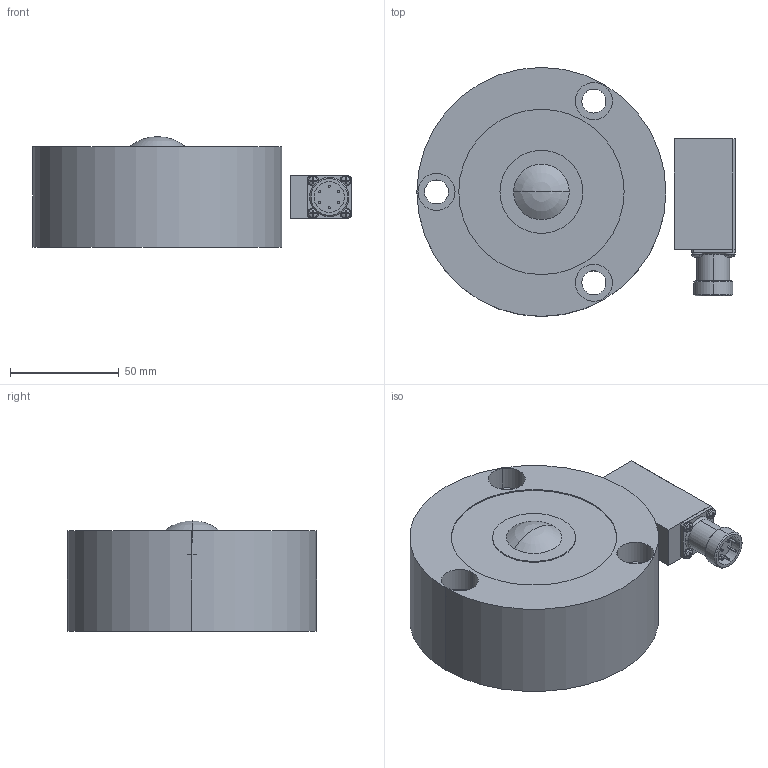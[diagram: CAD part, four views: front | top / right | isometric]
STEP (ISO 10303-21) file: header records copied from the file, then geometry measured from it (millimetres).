
FILE_DESCRIPTION(('STEP AP203'),'1');
FILE_NAME('C:/TPO v2/SharedFS/Outgoing/burster_85073-200_2w9ugfsd9ivw1m5sl3espuo20.stp','2013-08-27T14:15:58',('TraceParts'),('TraceParts S.A.'),'XStep 1.0',' ',' ');
FILE_SCHEMA(('CONFIG_CONTROL_DESIGN'));
Length unit declared in the file: millimetre
Products named in the file (1): 1
Bounding box: 146.05 x 114.3 x 50.8 mm (x, y, z)
Volume: 477152 mm3; surface area: 50547.1 mm2
Topology: 2 solids, 2 shells, 162 faces, 387 edges, 244 vertices
Faces by surface type: plane 90, cylinder 40, torus 18, cone 12, sphere 2
Entity records: 5134 total; most frequent: CARTESIAN_POINT 1308, DIRECTION 810, ORIENTED_EDGE 770, EDGE_CURVE 385, AXIS2_PLACEMENT_3D 322, VERTEX_POINT 244, EDGE_LOOP 185, LINE 166
